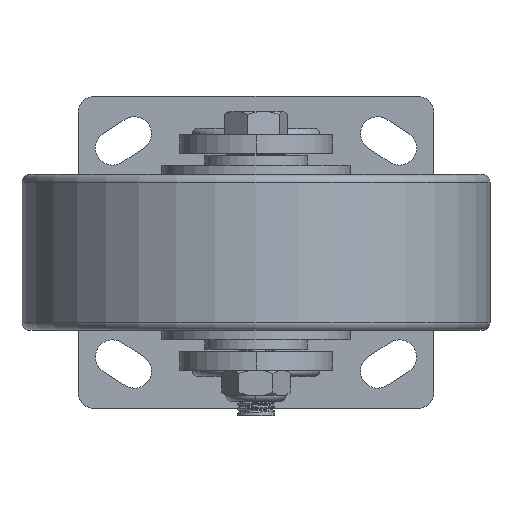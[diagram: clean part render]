
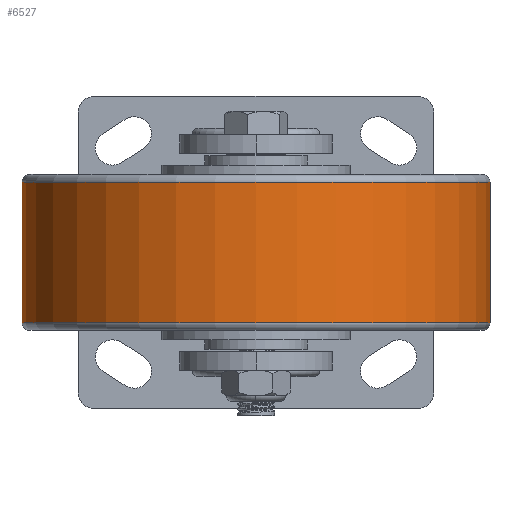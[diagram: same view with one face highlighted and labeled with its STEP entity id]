
A CAD part, front view. The second image highlights one B-rep face of the part: STEP entity #6527.
In plain terms, the highlighted cylindrical face has radius 75 mm (diameter 150 mm), a partial arc.
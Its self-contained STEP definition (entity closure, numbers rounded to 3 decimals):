
#705 = CARTESIAN_POINT ( 'NONE',  ( 0., -22.5, -75. ) ) ;
#1289 = EDGE_CURVE ( 'NONE', #3044, #33715, #9455, .T. ) ;
#1472 = CYLINDRICAL_SURFACE ( 'NONE', #11556, 75. ) ;
#3044 = VERTEX_POINT ( 'NONE', #17126 ) ;
#4592 = VECTOR ( 'NONE', #22613, 1000. ) ;
#6527 = ADVANCED_FACE ( 'NONE', ( #12379 ), #1472, .T. ) ;
#7199 = AXIS2_PLACEMENT_3D ( 'NONE', #26214, #23756, #17984 ) ;
#8748 = CARTESIAN_POINT ( 'NONE',  ( 0., 22.5, 75. ) ) ;
#9006 = AXIS2_PLACEMENT_3D ( 'NONE', #12754, #28562, #28377 ) ;
#9273 = ORIENTED_EDGE ( 'NONE', *, *, #1289, .T. ) ;
#9455 = LINE ( 'NONE', #20182, #4592 ) ;
#10585 = VERTEX_POINT ( 'NONE', #8748 ) ;
#11556 = AXIS2_PLACEMENT_3D ( 'NONE', #15168, #14820, #12199 ) ;
#12199 = DIRECTION ( 'NONE',  ( 0., 0., -1. ) ) ;
#12379 = FACE_OUTER_BOUND ( 'NONE', #34048, .T. ) ;
#12754 = CARTESIAN_POINT ( 'NONE',  ( 0., 22.5, 0. ) ) ;
#14820 = DIRECTION ( 'NONE',  ( 0., -1., 0. ) ) ;
#15168 = CARTESIAN_POINT ( 'NONE',  ( 0., 0., 0. ) ) ;
#16663 = EDGE_CURVE ( 'NONE', #10585, #3044, #29725, .T. ) ;
#17126 = CARTESIAN_POINT ( 'NONE',  ( 0., 22.5, -75. ) ) ;
#17984 = DIRECTION ( 'NONE',  ( 0., 0., -1. ) ) ;
#18028 = VERTEX_POINT ( 'NONE', #18707 ) ;
#18334 = EDGE_CURVE ( 'NONE', #33715, #18028, #23459, .T. ) ;
#18707 = CARTESIAN_POINT ( 'NONE',  ( 0., -22.5, 75. ) ) ;
#18828 = LINE ( 'NONE', #19014, #27822 ) ;
#19014 = CARTESIAN_POINT ( 'NONE',  ( 0., 0., 75. ) ) ;
#20182 = CARTESIAN_POINT ( 'NONE',  ( 0., 0., -75. ) ) ;
#20744 = ORIENTED_EDGE ( 'NONE', *, *, #30787, .F. ) ;
#21894 = ORIENTED_EDGE ( 'NONE', *, *, #16663, .T. ) ;
#22613 = DIRECTION ( 'NONE',  ( 0., -1., 0. ) ) ;
#23459 = CIRCLE ( 'NONE', #7199, 75. ) ;
#23756 = DIRECTION ( 'NONE',  ( 0., 1., 0. ) ) ;
#23818 = ORIENTED_EDGE ( 'NONE', *, *, #18334, .T. ) ;
#26214 = CARTESIAN_POINT ( 'NONE',  ( 0., -22.5, 0. ) ) ;
#27822 = VECTOR ( 'NONE', #29705, 1000. ) ;
#28377 = DIRECTION ( 'NONE',  ( 0., 0., 1. ) ) ;
#28562 = DIRECTION ( 'NONE',  ( 0., -1., 0. ) ) ;
#29705 = DIRECTION ( 'NONE',  ( 0., -1., 0. ) ) ;
#29725 = CIRCLE ( 'NONE', #9006, 75. ) ;
#30787 = EDGE_CURVE ( 'NONE', #10585, #18028, #18828, .T. ) ;
#33715 = VERTEX_POINT ( 'NONE', #705 ) ;
#34048 = EDGE_LOOP ( 'NONE', ( #20744, #21894, #9273, #23818 ) ) ;
